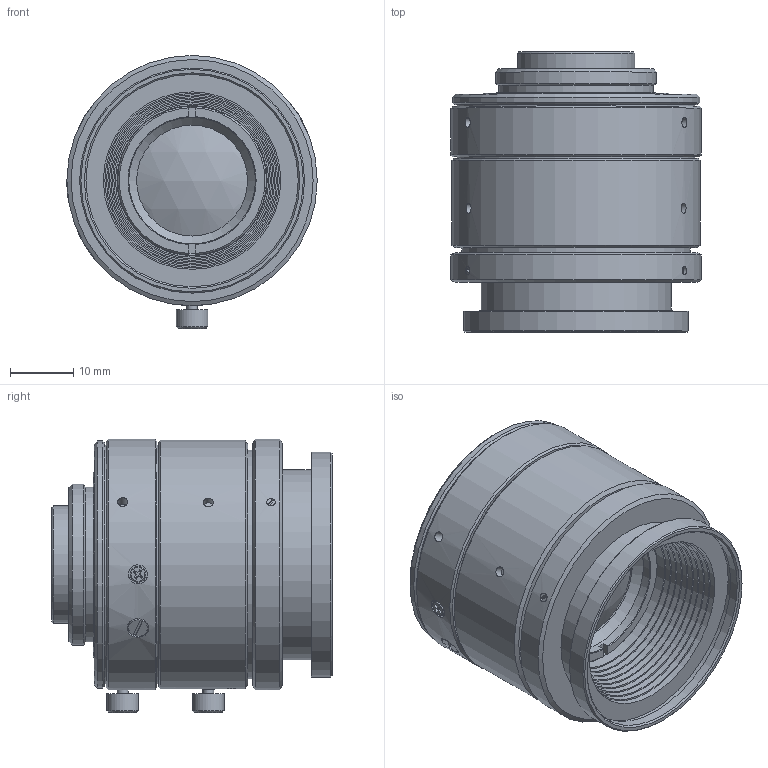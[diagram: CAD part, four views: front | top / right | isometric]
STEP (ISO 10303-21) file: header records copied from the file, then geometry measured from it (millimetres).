
FILE_DESCRIPTION( ( 'Unknown' ), '1' );
FILE_NAME( 'C:/Users/140166/Desktop/V2528-MPY_25mm.stp', 'Unknown', ( 'Unknown' ), ( 'Unknown' ), 'PSStep 17.0.49', 'Unknown', ' ' );
FILE_SCHEMA( ( 'AUTOMOTIVE_DESIGN { 1 0 10303 214 1 1 1 1 }' ) );
Length unit declared in the file: millimetre
Products named in the file (1): V2528-MPY_25mm
Bounding box: 39.53 x 44.2 x 43.1 mm (x, y, z)
Volume: 36563.9 mm3; surface area: 10566.2 mm2
Topology: 1 solids, 6 shells, 291 faces, 696 edges, 464 vertices
Faces by surface type: plane 169, cylinder 80, cone 38, torus 2, sphere 2
Full cylindrical faces by diameter (mm): 1.321 x6, 1.5 x1, 1.567 x5, 1.7 x6, 1.8 x3, 2 x1, 2.5 x2, 2.8 x1, 3 x5, 3.4 x1, 3.5 x3, 4.999 x2, 14.4 x1, 17.5 x1, 18.5 x1, 20 x1, 21 x1, 23.7 x1, 24.177 x1, 24.4 x1, 24.678 x1, 25.152 x1, 25.4 x1, 25.627 x1, 25.643 x1, 26.102 x1, 26.576 x1, 27.051 x1, 27.525 x1, 28 x1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
Entity records: 10530 total; most frequent: CARTESIAN_POINT 2005, DIRECTION 1264, ORIENTED_EDGE 1106, EDGE_CURVE 553, AXIS2_PLACEMENT_3D 463, EDGE_LOOP 448, VERTEX_POINT 421, FACE_OUTER_BOUND 358
